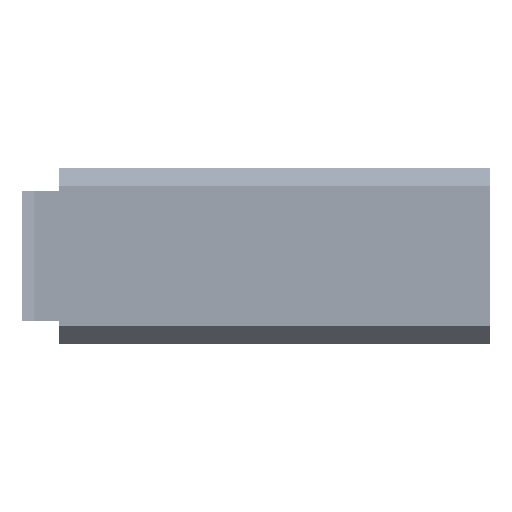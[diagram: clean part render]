
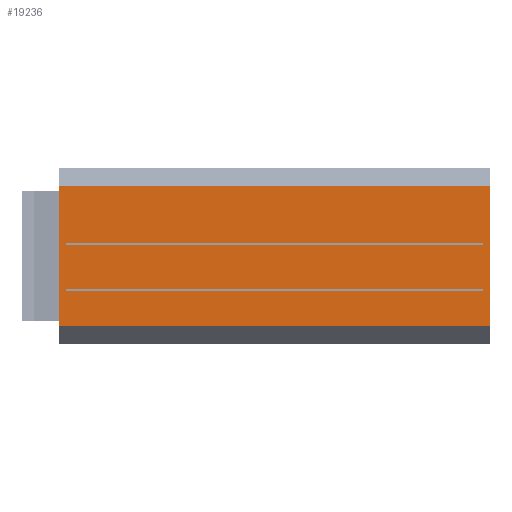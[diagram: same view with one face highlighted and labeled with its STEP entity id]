
A CAD part, left-side view. The second image highlights one B-rep face of the part: STEP entity #19236.
In plain terms, the highlighted planar face has unit normal (-1, 0, 0).
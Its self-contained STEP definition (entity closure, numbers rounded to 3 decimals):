
#5076=DIRECTION('',(0.,-1.,0.));
#5077=VECTOR('',#5076,106.4);
#5078=CARTESIAN_POINT('',(-63.05,53.2,17.25));
#5079=LINE('',#5078,#5077);
#5090=DIRECTION('',(0.,0.,1.));
#5091=VECTOR('',#5090,0.5);
#5092=CARTESIAN_POINT('',(-63.05,51.6,-8.6));
#5093=LINE('',#5092,#5091);
#5097=DIRECTION('',(0.,0.,1.));
#5098=VECTOR('',#5097,0.5);
#5099=CARTESIAN_POINT('',(-63.05,-51.6,-8.6));
#5100=LINE('',#5099,#5098);
#5104=DIRECTION('',(0.,0.,1.));
#5105=VECTOR('',#5104,0.5);
#5106=CARTESIAN_POINT('',(-63.05,51.6,2.6));
#5107=LINE('',#5106,#5105);
#5111=DIRECTION('',(0.,0.,1.));
#5112=VECTOR('',#5111,0.5);
#5113=CARTESIAN_POINT('',(-63.05,-51.6,2.6));
#5114=LINE('',#5113,#5112);
#5118=DIRECTION('',(0.,0.,-1.));
#5119=VECTOR('',#5118,34.5);
#5120=CARTESIAN_POINT('',(-63.05,53.2,17.25));
#5121=LINE('',#5120,#5119);
#5125=DIRECTION('',(0.,0.,-1.));
#5126=VECTOR('',#5125,34.5);
#5127=CARTESIAN_POINT('',(-63.05,-53.2,17.25));
#5128=LINE('',#5127,#5126);
#5146=DIRECTION('',(0.,1.,0.));
#5147=VECTOR('',#5146,103.2);
#5148=CARTESIAN_POINT('',(-63.05,-51.6,-8.1));
#5149=LINE('',#5148,#5147);
#5188=DIRECTION('',(0.,-1.,0.));
#5189=VECTOR('',#5188,103.2);
#5190=CARTESIAN_POINT('',(-63.05,51.6,-8.6));
#5191=LINE('',#5190,#5189);
#5216=DIRECTION('',(0.,-1.,0.));
#5217=VECTOR('',#5216,103.2);
#5218=CARTESIAN_POINT('',(-63.05,51.6,2.6));
#5219=LINE('',#5218,#5217);
#5251=DIRECTION('',(0.,1.,0.));
#5252=VECTOR('',#5251,103.2);
#5253=CARTESIAN_POINT('',(-63.05,-51.6,3.1));
#5254=LINE('',#5253,#5252);
#5279=DIRECTION('',(0.,1.,0.));
#5280=VECTOR('',#5279,106.4);
#5281=CARTESIAN_POINT('',(-63.05,-53.2,-17.25));
#5282=LINE('',#5281,#5280);
#11807=CARTESIAN_POINT('',(-63.05,53.2,17.25));
#11809=VERTEX_POINT('',#11807);
#11943=CARTESIAN_POINT('',(-63.05,53.2,-17.25));
#11945=VERTEX_POINT('',#11943);
#12086=CARTESIAN_POINT('',(-63.05,51.6,2.6));
#12087=CARTESIAN_POINT('',(-63.05,51.6,3.1));
#12088=VERTEX_POINT('',#12086);
#12089=VERTEX_POINT('',#12087);
#12090=CARTESIAN_POINT('',(-63.05,51.6,-8.6));
#12091=CARTESIAN_POINT('',(-63.05,51.6,-8.1));
#12092=VERTEX_POINT('',#12090);
#12093=VERTEX_POINT('',#12091);
#12103=CARTESIAN_POINT('',(-63.05,-53.2,17.25));
#12105=VERTEX_POINT('',#12103);
#12239=CARTESIAN_POINT('',(-63.05,-53.2,-17.25));
#12241=VERTEX_POINT('',#12239);
#12382=CARTESIAN_POINT('',(-63.05,-51.6,2.6));
#12383=CARTESIAN_POINT('',(-63.05,-51.6,3.1));
#12384=VERTEX_POINT('',#12382);
#12385=VERTEX_POINT('',#12383);
#12386=CARTESIAN_POINT('',(-63.05,-51.6,-8.6));
#12387=CARTESIAN_POINT('',(-63.05,-51.6,-8.1));
#12388=VERTEX_POINT('',#12386);
#12389=VERTEX_POINT('',#12387);
#19204=CARTESIAN_POINT('',(-63.05,0.,0.));
#19205=DIRECTION('',(1.,0.,0.));
#19206=DIRECTION('',(0.,1.,0.));
#19207=AXIS2_PLACEMENT_3D('',#19204,#19205,#19206);
#19208=PLANE('',#19207);
#19210=ORIENTED_EDGE('',*,*,#19209,.T.);
#19211=ORIENTED_EDGE('',*,*,#17333,.F.);
#19212=ORIENTED_EDGE('',*,*,#19189,.T.);
#19213=ORIENTED_EDGE('',*,*,#15050,.T.);
#19214=EDGE_LOOP('',(#19210,#19211,#19212,#19213));
#19215=FACE_OUTER_BOUND('',#19214,.F.);
#19217=ORIENTED_EDGE('',*,*,#19216,.T.);
#19219=ORIENTED_EDGE('',*,*,#19218,.F.);
#19221=ORIENTED_EDGE('',*,*,#19220,.T.);
#19223=ORIENTED_EDGE('',*,*,#19222,.T.);
#19224=EDGE_LOOP('',(#19217,#19219,#19221,#19223));
#19225=FACE_BOUND('',#19224,.F.);
#19227=ORIENTED_EDGE('',*,*,#19226,.T.);
#19229=ORIENTED_EDGE('',*,*,#19228,.F.);
#19231=ORIENTED_EDGE('',*,*,#19230,.T.);
#19233=ORIENTED_EDGE('',*,*,#19232,.T.);
#19234=EDGE_LOOP('',(#19227,#19229,#19231,#19233));
#19235=FACE_BOUND('',#19234,.F.);
#15050=EDGE_CURVE('',#12105,#12241,#5128,.T.);
#17333=EDGE_CURVE('',#11809,#11945,#5121,.T.);
#19189=EDGE_CURVE('',#11809,#12105,#5079,.T.);
#19209=EDGE_CURVE('',#12241,#11945,#5282,.T.);
#19216=EDGE_CURVE('',#12385,#12089,#5254,.T.);
#19218=EDGE_CURVE('',#12088,#12089,#5107,.T.);
#19220=EDGE_CURVE('',#12088,#12384,#5219,.T.);
#19222=EDGE_CURVE('',#12384,#12385,#5114,.T.);
#19226=EDGE_CURVE('',#12389,#12093,#5149,.T.);
#19228=EDGE_CURVE('',#12092,#12093,#5093,.T.);
#19230=EDGE_CURVE('',#12092,#12388,#5191,.T.);
#19232=EDGE_CURVE('',#12388,#12389,#5100,.T.);
#19236=ADVANCED_FACE('',(#19215,#19225,#19235),#19208,.F.);
